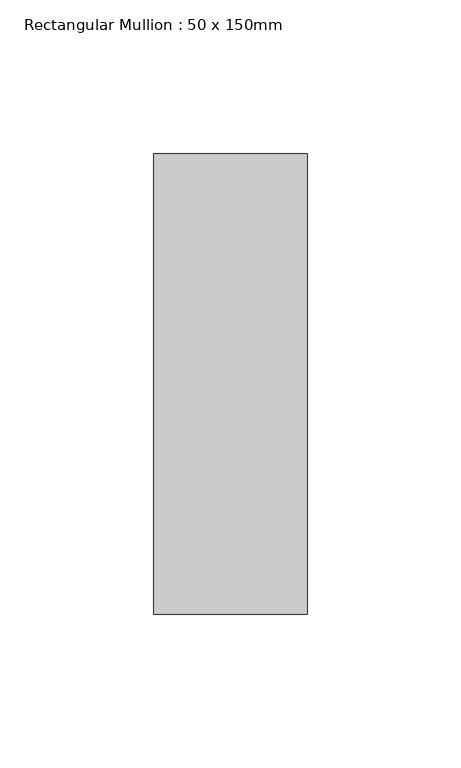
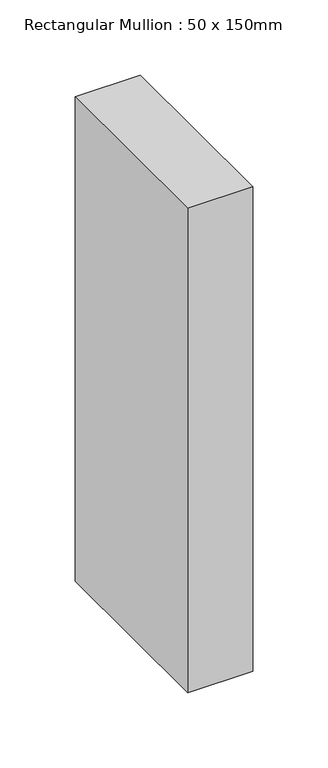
"""IFC4 building model written with IfcOpenShell, lengths in millimetres: member geometry, Rectangular Mullion : 50 x 150mm."""

from ifc_helpers import new_model, si_unit, frame, origin, place, context, project, spatial, polyline, outline, extrude, source, transform, mapped, element, save


def rectangular_mullion_50_x_150mm_fd6216c1(model_context):
    return source(origin(), model_context, "Body", "SweptSolid", [
        extrude(outline(polyline([(0.0, 75.0), (0.0, -75.0), (-50.0, -75.0), (-50.0, 75.0), (0.0, 75.0)])), frame((0.0, 0.0, -393.8814917), z_axis=(0.0, 0.0, 1.0), x_axis=(1.0, 0.0, 0.0)), (0.0, 0.0, 1.0), 393.8814917),
    ])


if __name__ == "__main__":
    model = new_model("IFC4")
    model_context = context("Model", 3, world=origin())
    ifc_project = project(units=[si_unit("LENGTHUNIT", "METRE", prefix="MILLI")], contexts=[model_context])
    site = spatial("IfcSite", under=ifc_project)
    building = spatial("IfcBuilding", under=site)
    placement = place(None, origin())
    rectangular_mullion_50_x_150mm_shape = rectangular_mullion_50_x_150mm_fd6216c1(model_context)
    element("IfcMember", 1, ObjectType="Rectangular Mullion : 50 x 150mm", at=placement, inside=building, context=model_context, shape_type="MappedRepresentation", body=[
        mapped(rectangular_mullion_50_x_150mm_shape, transform((0.0, 0.0, 0.0), x_axis=(1.0, 0.0, 0.0), y_axis=(0.0, 1.0, 0.0), z_axis=(0.0, 0.0, 1.0))),
    ])
    save(model, "model.ifc")
